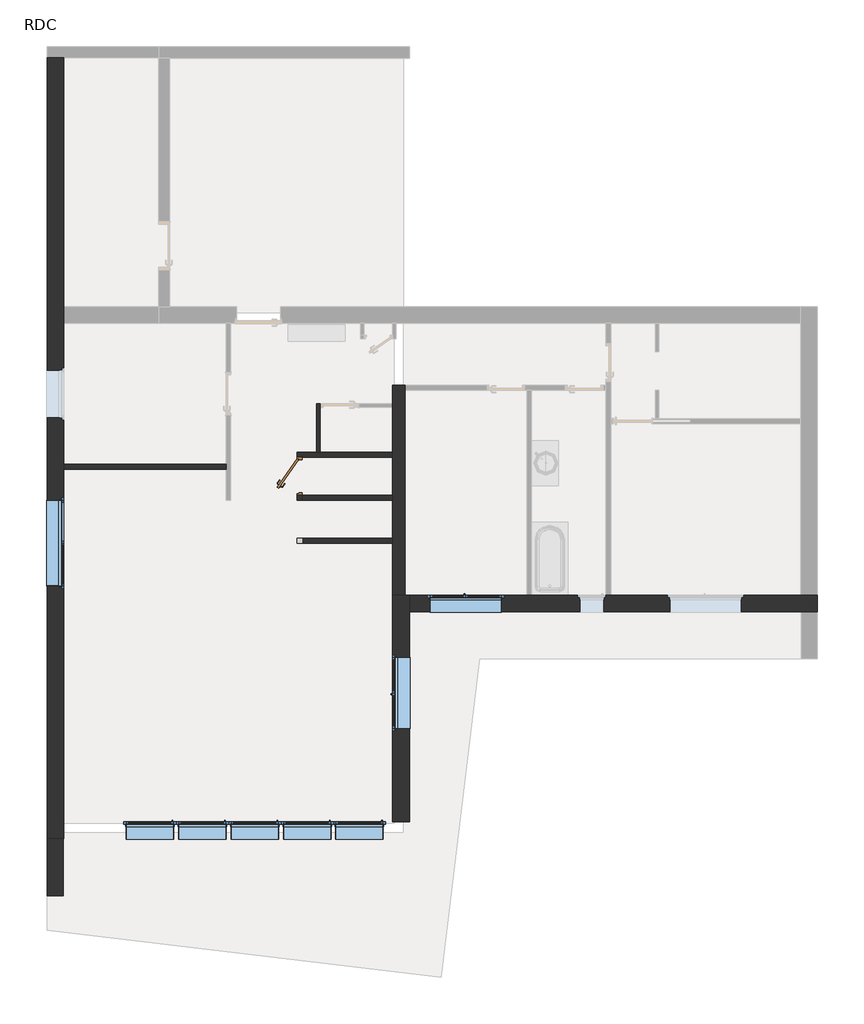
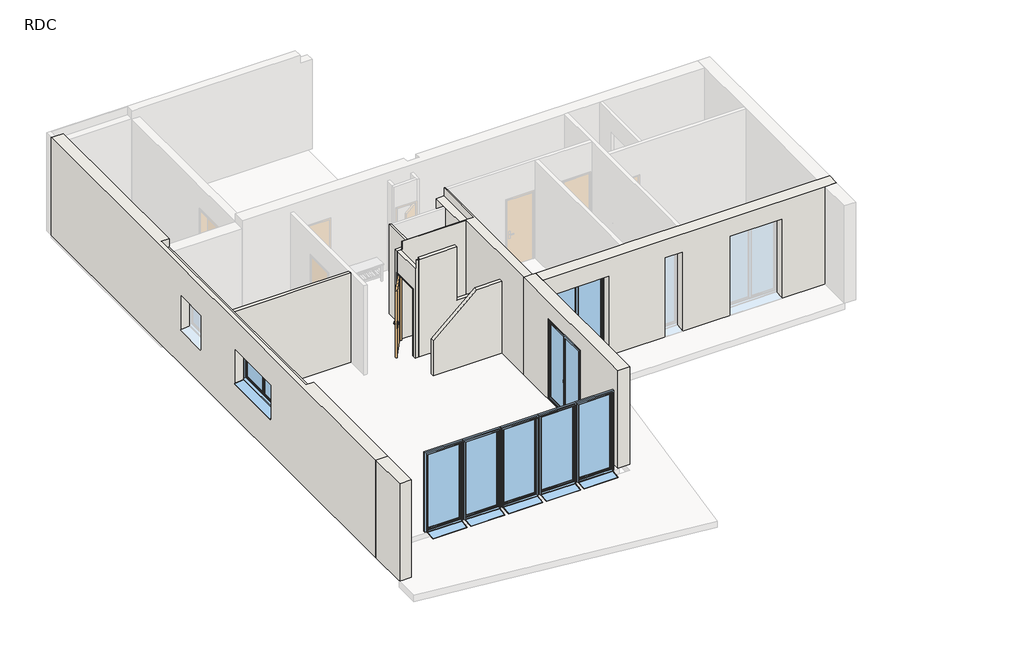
# One storey, part 1 of 2: 11 walls, 8 windows, 1 door.
"""IFC4 building model written with IfcOpenShell, lengths in millimetres."""

from ifc_helpers import new_model, si_unit, frame, origin, origin_with_axes, place, context, project, spatial, polyline, outline, extrude, faceted_brep, transform, mapped, element, save
from components import int_simple_pp_0_73m_x_2_04m_0155da5d, window_1_00m_x_2_40m_46732dcd, window_1_50m_x_2_40m_e69f112c, window_1_80m_x_1_00m_00121215

model = new_model("IFC4")

# Units and contexts
model_context = context("Model", 3, world=origin())
ifc_project = project(units=[si_unit("LENGTHUNIT", "METRE", prefix="MILLI")], contexts=[model_context])

# Site, building, storey
site = spatial("IfcSite", under=ifc_project)
building = spatial("IfcBuilding", under=site)
storey = spatial("IfcBuildingStorey", under=building, Name="RDC", Elevation=0.0)

# Door
placement = place(None, origin())
int_simple_pp_0_73m_x_2_04m_shape = int_simple_pp_0_73m_x_2_04m_0155da5d(model_context)
element("IfcDoor", 1, ObjectType="Int. Simple : PP (0.73m x 2.04m)", at=placement, inside=storey, context=model_context, shape_type="MappedRepresentation", body=[
    mapped(int_simple_pp_0_73m_x_2_04m_shape, transform((-2669.1256089, -1110.1038978, 0.0), x_axis=(0.0, 1.0, 0.0), y_axis=(-1.0, 0.0, 0.0), z_axis=(0.0, 0.0, 1.0))),
])

# Walls
element("IfcWall", 2, ObjectType="Ext. Bardage Métal + Isolant + Béton + Finition", at=placement, inside=storey, context=model_context, shape_type="Brep", body=[
    faceted_brep([(-7956.697342, 7624.9574199, 0.0), (-7956.697342, -8735.0425801, 0.0), (-7956.697342, -8735.0425801, 3000.0), (-7956.697342, 7624.9574199, 3000.0), (-7956.697342, 79.9267611, 2100.0), (-7956.697342, 79.9267611, 1056.6218565), (-7956.697342, 1079.9267611, 1056.6218565), (-7956.697342, 1079.9267611, 2100.0), (-7956.697342, -3445.1038978, 2100.0), (-7956.697342, -3445.1038978, 1056.6218565), (-7956.697342, -1645.1038978, 1056.6218565), (-7956.697342, -1645.1038978, 2100.0), (-7606.697342, -8735.0425801, 0.0), (-7606.697342, -8385.0425801, 0.0), (-7606.697342, -995.1038978, 0.0), (-7606.697342, -895.1038978, 0.0), (-7606.697342, 2054.9574199, 0.0), (-7606.697342, 2404.9574199, 0.0), (-7606.697342, 7624.9574199, 0.0), (-7606.697342, 7624.9574199, 3000.0), (-7606.697342, 2284.9574199, 3000.0), (-7606.697342, 2284.9574199, 2750.0), (-7606.697342, 2054.9574199, 2750.0), (-7606.697342, -895.1038978, 2750.0), (-7606.697342, -995.1038978, 2750.0), (-7606.697342, -4992.0425801, 2750.0), (-7606.697342, -4992.0425801, 3000.0), (-7606.697342, -8385.0425801, 3000.0), (-7606.697342, -8735.0425801, 3000.0), (-7606.697342, 1129.9267611, 1100.0), (-7606.697342, 29.9267611, 1100.0), (-7606.697342, 29.9267611, 2150.0), (-7606.697342, 1129.9267611, 2150.0), (-7606.697342, -1595.1038978, 1100.0), (-7606.697342, -3495.1038978, 1100.0), (-7606.697342, -3495.1038978, 2150.0), (-7606.697342, -1595.1038978, 2150.0), (-7616.697342, -8735.0425801, 0.0), (-7616.697342, -8735.0425801, 3000.0), (-7836.697342, -4992.0425801, 3000.0), (-7836.697342, 2284.9574199, 3000.0), (-7836.697342, 7624.9574199, 3000.0), (-7836.697342, 2284.9574199, 2750.0), (-7836.697342, -4992.0425801, 2750.0), (-7686.697342, 79.9267611, 1100.0), (-7686.697342, 79.9267611, 1085.0), (-7706.697342, 79.9267611, 2100.0), (-7706.697342, 79.9267611, 1100.0), (-7686.697342, 1079.9267611, 1085.0), (-7686.697342, 1079.9267611, 1100.0), (-7706.697342, 1079.9267611, 1100.0), (-7706.697342, 1079.9267611, 2100.0), (-7706.697342, 69.9267611, 1100.0), (-7656.697342, 69.9267611, 1100.0), (-7656.697342, 29.9267611, 1100.0), (-7656.697342, 1129.9267611, 1100.0), (-7656.697342, 1089.9267611, 1100.0), (-7706.697342, 1089.9267611, 1100.0), (-7656.697342, 29.9267611, 2150.0), (-7656.697342, 69.9267611, 2110.0), (-7656.697342, 1089.9267611, 2110.0), (-7656.697342, 1129.9267611, 2150.0), (-7706.697342, 69.9267611, 2110.0), (-7706.697342, 1089.9267611, 2110.0), (-7686.697342, -3445.1038978, 1100.0), (-7686.697342, -3445.1038978, 1085.0), (-7706.697342, -3445.1038978, 2100.0), (-7706.697342, -3445.1038978, 1100.0), (-7686.697342, -1645.1038978, 1085.0), (-7686.697342, -1645.1038978, 1100.0), (-7706.697342, -1645.1038978, 1100.0), (-7706.697342, -1645.1038978, 2100.0), (-7706.697342, -3455.1038978, 1100.0), (-7656.697342, -3455.1038978, 1100.0), (-7656.697342, -3495.1038978, 1100.0), (-7656.697342, -1595.1038978, 1100.0), (-7656.697342, -1635.1038978, 1100.0), (-7706.697342, -1635.1038978, 1100.0), (-7656.697342, -3495.1038978, 2150.0), (-7656.697342, -3455.1038978, 2110.0), (-7656.697342, -1635.1038978, 2110.0), (-7656.697342, -1595.1038978, 2150.0), (-7706.697342, -3455.1038978, 2110.0), (-7706.697342, -1635.1038978, 2110.0)], [[[0, 1, 2, 3], [4, 5, 6, 7], [8, 9, 10, 11]], [[12, 13, 14, 15, 16, 17, 18, 19, 20, 21, 22, 23, 24, 25, 26, 27, 28], [29, 30, 31, 32], [33, 34, 35, 36]], [[1, 0, 18, 17, 16, 15, 14, 13, 12, 37]], [[3, 2, 38, 28, 27, 26, 39, 40, 20, 19, 41]], [[42, 43, 25, 24, 23, 22, 21]], [[43, 42, 40, 39]], [[43, 39, 26, 25]], [[40, 42, 21, 20]], [[0, 3, 41, 19, 18]], [[2, 1, 37, 12, 28, 38]], [[44, 45, 5, 4, 46, 47]], [[48, 49, 50, 51, 7, 6]], [[5, 45, 48, 6]], [[45, 44, 49, 48]], [[46, 4, 7, 51]], [[44, 47, 52, 53, 54, 30, 29, 55, 56, 57, 50, 49]], [[30, 54, 58, 31]], [[54, 53, 59, 60, 56, 55, 61, 58]], [[53, 52, 62, 59]], [[47, 46, 51, 50, 57, 63, 62, 52]], [[31, 58, 61, 32]], [[60, 59, 62, 63]], [[55, 29, 32, 61]], [[57, 56, 60, 63]], [[64, 65, 9, 8, 66, 67]], [[68, 69, 70, 71, 11, 10]], [[9, 65, 68, 10]], [[65, 64, 69, 68]], [[66, 8, 11, 71]], [[64, 67, 72, 73, 74, 34, 33, 75, 76, 77, 70, 69]], [[34, 74, 78, 35]], [[74, 73, 79, 80, 76, 75, 81, 78]], [[73, 72, 82, 79]], [[67, 66, 71, 70, 77, 83, 82, 72]], [[35, 78, 81, 36]], [[80, 79, 82, 83]], [[75, 33, 36, 81]], [[77, 76, 80, 83]]]),
])
element("IfcWall", 3, ObjectType="Ext. Bardage Bois + Isolant + Béton + Finition", at=placement, inside=storey, context=model_context, shape_type="Brep", body=[
    faceted_brep([(-366.697342, -8385.0425801, 0.0), (-366.697342, -3985.0425801, 0.0), (-366.697342, -3635.0425801, 0.0), (-366.697342, -3635.0425801, 3000.0), (-366.697342, -3985.0425801, 3000.0), (-366.697342, -8385.0425801, 3000.0), (-366.697342, -4935.0425801, 2435.0), (-366.697342, -4935.0425801, 6.6218565), (-366.697342, -6435.0425801, 6.6218565), (-366.697342, -6435.0425801, 2435.0), (-716.697342, -8385.0425801, 0.0), (-716.697342, -8385.0425801, 3000.0), (-716.697342, -3635.0425801, 3000.0), (-716.697342, -3635.0425801, 0.0), (-716.697342, -6485.0425801, 35.0), (-716.697342, -4885.0425801, 35.0), (-716.697342, -4885.0425801, 2485.0), (-716.697342, -6485.0425801, 2485.0), (-456.697342, -3635.0425801, 0.0), (-456.697342, -3635.0425801, 3000.0), (-636.697342, -4935.0425801, 35.0), (-616.697342, -4935.0425801, 2435.0), (-616.697342, -4935.0425801, 35.0), (-636.697342, -6435.0425801, 35.0), (-616.697342, -6435.0425801, 35.0), (-616.697342, -6435.0425801, 2435.0), (-616.697342, -4925.0425801, 35.0), (-666.697342, -4925.0425801, 35.0), (-666.697342, -4885.0425801, 35.0), (-666.697342, -6485.0425801, 35.0), (-666.697342, -6445.0425801, 35.0), (-616.697342, -6445.0425801, 35.0), (-666.697342, -4885.0425801, 2485.0), (-666.697342, -4925.0425801, 2445.0), (-666.697342, -6445.0425801, 2445.0), (-666.697342, -6485.0425801, 2485.0), (-616.697342, -4925.0425801, 2445.0), (-616.697342, -6445.0425801, 2445.0)], [[[0, 1, 2, 3, 4, 5], [6, 7, 8, 9]], [[10, 11, 12, 13], [14, 15, 16, 17]], [[2, 1, 0, 10, 13, 18]], [[5, 4, 3, 19, 12, 11]], [[0, 5, 11, 10]], [[3, 2, 18, 13, 12, 19]], [[20, 7, 6, 21, 22]], [[8, 23, 24, 25, 9]], [[20, 23, 8, 7]], [[6, 9, 25, 21]], [[23, 20, 22, 26, 27, 28, 15, 14, 29, 30, 31, 24]], [[15, 28, 32, 16]], [[28, 27, 33, 34, 30, 29, 35, 32]], [[27, 26, 36, 33]], [[26, 22, 21, 25, 24, 31, 37, 36]], [[16, 32, 35, 17]], [[34, 33, 36, 37]], [[35, 29, 14, 17]], [[30, 34, 37, 31]]]),
])
element("IfcWall", 4, ObjectType="Ext. Bardage Métal + Isolant + Béton + Finition", at=placement, inside=storey, context=model_context, shape_type="Brep", body=[
    faceted_brep([(-366.697342, -3985.0425801, 0.0), (7843.302658, -3985.0425801, 0.0), (8183.302658, -3985.0425801, 0.0), (8183.302658, -3985.0425801, 3000.0), (7843.302658, -3985.0425801, 3000.0), (-366.697342, -3985.0425801, 3000.0), (1563.302658, -3985.0425801, 2435.0), (1563.302658, -3985.0425801, 6.6218565), (63.302658, -3985.0425801, 6.6218565), (63.302658, -3985.0425801, 2435.0), (6593.802658, -3985.0425801, 2435.0), (6593.802658, -3985.0425801, 6.6218565), (5093.802658, -3985.0425801, 6.6218565), (5093.802658, -3985.0425801, 2435.0), (3704.302658, -3985.0425801, 2435.0), (3704.302658, -3985.0425801, 6.6218565), (3204.302658, -3985.0425801, 6.6218565), (3204.302658, -3985.0425801, 2435.0), (-366.697342, -3635.0425801, 0.0), (-366.697342, -3635.0425801, 3000.0), (2094.302658, -3635.0425801, 3000.0), (2194.302658, -3635.0425801, 3000.0), (3754.302658, -3635.0425801, 3000.0), (3854.302658, -3635.0425801, 3000.0), (7833.302658, -3635.0425801, 3000.0), (8183.302658, -3635.0425801, 3000.0), (8183.302658, -3635.0425801, 0.0), (7833.302658, -3635.0425801, 0.0), (3854.302658, -3635.0425801, 0.0), (3754.302658, -3635.0425801, 0.0), (2194.302658, -3635.0425801, 0.0), (2094.302658, -3635.0425801, 0.0), (13.302658, -3635.0425801, 35.0), (1613.302658, -3635.0425801, 35.0), (1613.302658, -3635.0425801, 2485.0), (13.302658, -3635.0425801, 2485.0), (5043.802658, -3635.0425801, 35.0), (6643.802658, -3635.0425801, 35.0), (6643.802658, -3635.0425801, 2485.0), (5043.802658, -3635.0425801, 2485.0), (3154.302658, -3635.0425801, 35.0), (3754.302658, -3635.0425801, 35.0), (3754.302658, -3635.0425801, 2485.0), (3154.302658, -3635.0425801, 2485.0), (1563.302658, -3715.0425801, 35.0), (1563.302658, -3735.0425801, 2435.0), (1563.302658, -3735.0425801, 35.0), (63.302658, -3715.0425801, 35.0), (63.302658, -3735.0425801, 35.0), (63.302658, -3735.0425801, 2435.0), (1573.302658, -3735.0425801, 35.0), (1573.302658, -3685.0425801, 35.0), (1613.302658, -3685.0425801, 35.0), (13.302658, -3685.0425801, 35.0), (53.302658, -3685.0425801, 35.0), (53.302658, -3735.0425801, 35.0), (1613.302658, -3685.0425801, 2485.0), (1573.302658, -3685.0425801, 2445.0), (53.302658, -3685.0425801, 2445.0), (13.302658, -3685.0425801, 2485.0), (1573.302658, -3735.0425801, 2445.0), (53.302658, -3735.0425801, 2445.0), (6593.802658, -3715.0425801, 35.0), (6593.802658, -3735.0425801, 2435.0), (6593.802658, -3735.0425801, 35.0), (5093.802658, -3715.0425801, 35.0), (5093.802658, -3735.0425801, 35.0), (5093.802658, -3735.0425801, 2435.0), (6603.802658, -3735.0425801, 35.0), (6603.802658, -3685.0425801, 35.0), (6643.802658, -3685.0425801, 35.0), (5043.802658, -3685.0425801, 35.0), (5083.802658, -3685.0425801, 35.0), (5083.802658, -3735.0425801, 35.0), (6643.802658, -3685.0425801, 2485.0), (6603.802658, -3685.0425801, 2445.0), (5083.802658, -3685.0425801, 2445.0), (5043.802658, -3685.0425801, 2485.0), (6603.802658, -3735.0425801, 2445.0), (5083.802658, -3735.0425801, 2445.0), (3704.302658, -3715.0425801, 35.0), (3704.302658, -3735.0425801, 2435.0), (3704.302658, -3735.0425801, 35.0), (3204.302658, -3715.0425801, 35.0), (3204.302658, -3735.0425801, 35.0), (3204.302658, -3735.0425801, 2435.0), (3714.302658, -3735.0425801, 35.0), (3714.302658, -3685.0425801, 35.0), (3754.302658, -3685.0425801, 35.0), (3154.302658, -3685.0425801, 35.0), (3194.302658, -3685.0425801, 35.0), (3194.302658, -3735.0425801, 35.0), (3754.302658, -3685.0425801, 2485.0), (3714.302658, -3685.0425801, 2445.0), (3194.302658, -3685.0425801, 2445.0), (3154.302658, -3685.0425801, 2485.0), (3714.302658, -3735.0425801, 2445.0), (3194.302658, -3735.0425801, 2445.0)], [[[0, 1, 2, 3, 4, 5], [6, 7, 8, 9], [10, 11, 12, 13], [14, 15, 16, 17]], [[18, 19, 20, 21, 22, 23, 24, 25, 26, 27, 28, 29, 30, 31], [32, 33, 34, 35], [36, 37, 38, 39], [40, 41, 42, 43]], [[2, 1, 0, 18, 31, 30, 29, 28, 27, 26]], [[5, 4, 3, 25, 24, 23, 22, 21, 20, 19]], [[0, 5, 19, 18]], [[3, 2, 26, 25]], [[44, 7, 6, 45, 46]], [[8, 47, 48, 49, 9]], [[44, 47, 8, 7]], [[6, 9, 49, 45]], [[47, 44, 46, 50, 51, 52, 33, 32, 53, 54, 55, 48]], [[33, 52, 56, 34]], [[52, 51, 57, 58, 54, 53, 59, 56]], [[51, 50, 60, 57]], [[50, 46, 45, 49, 48, 55, 61, 60]], [[34, 56, 59, 35]], [[58, 57, 60, 61]], [[59, 53, 32, 35]], [[54, 58, 61, 55]], [[62, 11, 10, 63, 64]], [[12, 65, 66, 67, 13]], [[62, 65, 12, 11]], [[10, 13, 67, 63]], [[65, 62, 64, 68, 69, 70, 37, 36, 71, 72, 73, 66]], [[37, 70, 74, 38]], [[70, 69, 75, 76, 72, 71, 77, 74]], [[69, 68, 78, 75]], [[68, 64, 63, 67, 66, 73, 79, 78]], [[38, 74, 77, 39]], [[76, 75, 78, 79]], [[77, 71, 36, 39]], [[72, 76, 79, 73]], [[80, 15, 14, 81, 82]], [[16, 83, 84, 85, 17]], [[80, 83, 16, 15]], [[14, 17, 85, 81]], [[83, 80, 82, 86, 87, 88, 41, 40, 89, 90, 91, 84]], [[41, 88, 92, 42]], [[88, 87, 93, 94, 90, 89, 95, 92]], [[87, 86, 96, 93]], [[86, 82, 81, 85, 84, 91, 97, 96]], [[42, 92, 95, 43]], [[94, 93, 96, 97]], [[95, 89, 40, 43]], [[90, 94, 97, 91]]]),
])
element("IfcWall", 5, ObjectType="Int. Plâtre 100 mm", at=placement, inside=storey, context=model_context, shape_type="SweptSolid", body=[
    extrude(outline(polyline([(-4211.697342, -995.1038978), (-7606.697342, -995.1038978), (-7606.697342, -895.1038978), (-4211.697342, -895.1038978), (-4211.697342, -995.1038978)])), origin_with_axes(), (0.0, 0.0, 1.0), 2750.0),
])
element("IfcWall", 6, ObjectType="Int. Plâtre 100 mm", at=placement, inside=storey, context=model_context, shape_type="Brep", body=[
    faceted_brep([(-716.697342, -645.1038978, 0.0), (-2241.697342, -645.1038978, 0.0), (-2313.697342, -645.1038978, 0.0), (-2719.1256089, -645.1038978, 0.0), (-2719.1256089, -645.1038978, 2750.0), (-2313.697342, -645.1038978, 2750.0), (-2241.697342, -645.1038978, 2750.0), (-716.697342, -645.1038978, 2750.0), (-2719.1256089, -745.1038978, 0.0), (-716.697342, -745.1038978, 0.0), (-716.697342, -745.1038978, 3000.0), (-2577.5004576, -745.1038978, 3000.0), (-2577.5004576, -745.1038978, 2750.0), (-2619.1256089, -745.1038978, 2750.0), (-2719.1256089, -745.1038978, 2750.0), (-2719.1256089, -745.1038978, 2075.0), (-716.697342, -732.1038978, 3000.0), (-2577.5004576, -732.1038978, 3000.0), (-716.697342, -732.1038978, 2750.0), (-2577.5004576, -732.1038978, 2750.0)], [[[0, 1, 2, 3, 4, 5, 6, 7]], [[8, 9, 10, 11, 12, 13, 14, 15]], [[3, 2, 1, 0, 9, 8]], [[11, 10, 16, 17]], [[3, 8, 15, 14, 4]], [[10, 9, 0, 7, 18, 16]], [[12, 19, 18, 7, 6, 5, 4, 14, 13]], [[19, 17, 16, 18]], [[17, 19, 12, 11]]]),
])
element("IfcWall", 7, ObjectType="Int. Plâtre 100 mm", at=placement, inside=storey, context=model_context, shape_type="Brep", body=[
    faceted_brep([(-2719.1256089, -1545.1038978, 0.0), (-2719.1256089, -1645.1038978, 0.0), (-2719.1256089, -1645.1038978, 2750.0), (-2719.1256089, -745.1038978, 2750.0), (-2719.1256089, -745.1038978, 2075.0), (-2719.1256089, -1545.1038978, 2075.0), (-2619.1256089, -1645.1038978, 3000.0), (-2619.1256089, -1645.1038978, 0.0), (-2619.1256089, -1545.1038978, 0.0), (-2619.1256089, -1545.1038978, 2075.0), (-2619.1256089, -745.1038978, 2075.0), (-2619.1256089, -745.1038978, 2750.0), (-2619.1256089, -1545.1038978, 2750.0), (-2619.1256089, -1632.1038978, 2750.0), (-2619.1256089, -1632.1038978, 3000.0), (-2682.3224934, -1632.1038978, 3000.0), (-2682.3224934, -1645.1038978, 3000.0), (-2682.3224934, -1645.1038978, 2750.0), (-2682.3224934, -1632.1038978, 2750.0)], [[[0, 1, 2, 3, 4, 5]], [[6, 7, 8, 9, 10, 11, 12, 13, 14]], [[7, 1, 0, 8]], [[6, 14, 15, 16]], [[10, 4, 3, 11]], [[17, 18, 13, 12, 11, 3, 2]], [[1, 7, 6, 16, 17, 2]], [[18, 15, 14, 13]], [[15, 18, 17, 16]], [[9, 5, 4, 10]], [[5, 9, 8, 0]]]),
])
element("IfcWall", 8, ObjectType="Int. Plâtre 100 mm", at=placement, inside=storey, context=model_context, shape_type="Brep", body=[
    faceted_brep([(-2619.1256089, -1645.1038978, 0.0), (-716.697342, -1645.1038978, 0.0), (-716.697342, -1645.1038978, 1360.0), (-1515.8753062, -1645.1038978, 1360.0), (-1515.8753062, -1645.1038978, 3000.0), (-2619.1256089, -1645.1038978, 3000.0), (-716.697342, -1545.1038978, 0.0), (-2619.1256089, -1545.1038978, 0.0), (-2619.1256089, -1545.1038978, 2750.0), (-2577.5004576, -1545.1038978, 2750.0), (-2577.5004576, -1545.1038978, 3000.0), (-1515.8753062, -1545.1038978, 3000.0), (-1515.8753062, -1545.1038978, 1360.0), (-716.697342, -1545.1038978, 1360.0), (-2577.5004576, -1632.1038978, 3000.0), (-2619.1256089, -1632.1038978, 3000.0), (-2619.1256089, -1632.1038978, 2750.0), (-2577.5004576, -1632.1038978, 2750.0)], [[[0, 1, 2, 3, 4, 5]], [[6, 7, 8, 9, 10, 11, 12, 13]], [[2, 1, 6, 13]], [[1, 0, 7, 6]], [[5, 4, 11, 10, 14, 15]], [[3, 2, 13, 12]], [[4, 3, 12, 11]], [[7, 0, 5, 15, 16, 8]], [[16, 17, 9, 8]], [[17, 14, 10, 9]], [[14, 17, 16, 15]]]),
])
element("IfcWall", 9, ObjectType="Int. Plâtre 70 mm", at=placement, inside=storey, context=model_context, shape_type="Brep", body=[
    faceted_brep([(-2241.697342, -645.1038978, 0.0), (-2241.697342, 299.8961022, 0.0), (-2241.697342, 371.8961022, 0.0), (-2241.697342, 371.8961022, 2750.0), (-2241.697342, 299.8961022, 2750.0), (-2241.697342, -645.1038978, 2750.0), (-2313.697342, -645.1038978, 0.0), (-2313.697342, -645.1038978, 2750.0), (-2313.697342, 371.8961022, 2750.0), (-2313.697342, 371.8961022, 0.0)], [[[0, 1, 2, 3, 4, 5]], [[6, 7, 8, 9]], [[2, 1, 0, 6, 9]], [[0, 5, 7, 6]], [[3, 2, 9, 8]], [[5, 4, 3, 8, 7]]]),
])
element("IfcWall", 10, ObjectType="Int. Béton + Finition", at=placement, inside=storey, context=model_context, shape_type="Brep", body=[
    faceted_brep([(-716.697342, 757.8961022, 0.0), (-716.697342, 371.8961022, 0.0), (-716.697342, 299.8961022, 0.0), (-716.697342, -645.1038978, 0.0), (-716.697342, -745.1038978, 0.0), (-716.697342, -1545.1038978, 0.0), (-716.697342, -1645.1038978, 0.0), (-716.697342, -2445.1038978, 0.0), (-716.697342, -2545.1038978, 0.0), (-716.697342, -3635.0425801, 0.0), (-716.697342, -3635.0425801, 3000.0), (-716.697342, -745.1038978, 3000.0), (-716.697342, -732.1038978, 3000.0), (-716.697342, -732.1038978, 2750.0), (-716.697342, -645.1038978, 2750.0), (-716.697342, 299.8961022, 2750.0), (-716.697342, 371.8961022, 2750.0), (-716.697342, 757.8961022, 2750.0), (-456.697342, -3635.0425801, 0.0), (-456.697342, 657.8961022, 0.0), (-456.697342, 757.8961022, 0.0), (-456.697342, 757.8961022, 3000.0), (-456.697342, 657.8961022, 3000.0), (-456.697342, -3635.0425801, 3000.0), (-486.697342, 757.8961022, 3000.0), (-486.697342, -732.1038978, 3000.0), (-486.697342, 757.8961022, 2750.0), (-486.697342, -732.1038978, 2750.0)], [[[0, 1, 2, 3, 4, 5, 6, 7, 8, 9, 10, 11, 12, 13, 14, 15, 16, 17]], [[18, 19, 20, 21, 22, 23]], [[9, 8, 7, 6, 5, 4, 3, 2, 1, 0, 20, 19, 18]], [[23, 22, 21, 24, 25, 12, 11, 10]], [[21, 20, 0, 17, 26, 24]], [[10, 9, 18, 23]], [[13, 27, 26, 17, 16, 15, 14]], [[27, 25, 24, 26]], [[25, 27, 13, 12]]]),
])
element("IfcWall", 11, ObjectType="Int. Plâtre 100 mm", at=placement, inside=storey, context=model_context, shape_type="SweptSolid", body=[
    extrude(outline(polyline([(0.0, -716.697342), (2212.5, -716.697342), (2212.5, -1446.8453117), (1087.5, -2719.1256089), (0.0, -2719.1256089), (0.0, -716.697342)])), frame((0.0, -2545.1038978, 0.0), z_axis=(0.0, 1.0, 0.0), x_axis=(0.0, 0.0, 1.0)), (0.0, 0.0, 1.0), 100.0),
])
element("IfcWall", 12, ObjectType="Ext. Bardage Métal + Isolant + Béton + Bardage Bois", at=placement, inside=storey, context=model_context, shape_type="SweptSolid", body=[
    extrude(outline(polyline([(-7956.697342, -9932.1038978), (-7956.697342, -8735.0425801), (-7616.697342, -8735.0425801), (-7616.697342, -9932.1038978), (-7956.697342, -9932.1038978)])), origin_with_axes(), (0.0, 0.0, 1.0), 3000.0),
])

# Windows
window_1_00m_x_2_40m_shape = window_1_00m_x_2_40m_46732dcd(model_context)
element("IfcWindow", 13, ObjectType="PF 1 Vantail - Droite : 1.00m x 2.40m", at=placement, inside=storey, context=model_context, shape_type="MappedRepresentation", body=[
    mapped(window_1_00m_x_2_40m_shape, transform((-5806.697342, -8560.0425801, 0.0), x_axis=(-1.0, 0.0, 0.0), y_axis=(0.0, -1.0, 0.0), z_axis=(0.0, 0.0, 1.0))),
])
element("IfcWindow", 14, ObjectType="PF 1 Vantail - Droite : 1.00m x 2.40m", at=placement, inside=storey, context=model_context, shape_type="MappedRepresentation", body=[
    mapped(window_1_00m_x_2_40m_shape, transform((-4706.697342, -8560.0425801, 0.0), x_axis=(-1.0, 0.0, 0.0), y_axis=(0.0, -1.0, 0.0), z_axis=(0.0, 0.0, 1.0))),
])
element("IfcWindow", 15, ObjectType="PF 1 Vantail - Droite : 1.00m x 2.40m", at=placement, inside=storey, context=model_context, shape_type="MappedRepresentation", body=[
    mapped(window_1_00m_x_2_40m_shape, transform((-3606.697342, -8560.0425801, 0.0), x_axis=(-1.0, 0.0, 0.0), y_axis=(0.0, -1.0, 0.0), z_axis=(0.0, 0.0, 1.0))),
])
element("IfcWindow", 16, ObjectType="PF 1 Vantail - Droite : 1.00m x 2.40m", at=placement, inside=storey, context=model_context, shape_type="MappedRepresentation", body=[
    mapped(window_1_00m_x_2_40m_shape, transform((-2506.697342, -8560.0425801, 0.0), x_axis=(-1.0, 0.0, 0.0), y_axis=(0.0, -1.0, 0.0), z_axis=(0.0, 0.0, 1.0))),
])
element("IfcWindow", 17, ObjectType="PF 1 Vantail - Droite : 1.00m x 2.40m", at=placement, inside=storey, context=model_context, shape_type="MappedRepresentation", body=[
    mapped(window_1_00m_x_2_40m_shape, transform((-1416.697342, -8560.0425801, 0.0), x_axis=(-1.0, 0.0, 0.0), y_axis=(0.0, -1.0, 0.0), z_axis=(0.0, 0.0, 1.0))),
])
window_1_50m_x_2_40m_shape = window_1_50m_x_2_40m_e69f112c(model_context)
element("IfcWindow", 18, ObjectType="PF 2 Vantaux - Droits : 1.50m x 2.40m", at=placement, inside=storey, context=model_context, shape_type="MappedRepresentation", body=[
    mapped(window_1_50m_x_2_40m_shape, transform((813.302658, -3810.0425801, 0.0), x_axis=(-1.0, 0.0, 0.0), y_axis=(0.0, -1.0, 0.0), z_axis=(0.0, 0.0, 1.0))),
])
element("IfcWindow", 19, ObjectType="PF 2 Vantaux - Droits : 1.50m x 2.40m", at=placement, inside=storey, context=model_context, shape_type="MappedRepresentation", body=[
    mapped(window_1_50m_x_2_40m_shape, transform((-541.697342, -5685.0425801, 0.0), x_axis=(0.0, -1.0, 0.0), y_axis=(1.0, 0.0, 0.0), z_axis=(0.0, 0.0, 1.0))),
])
window_1_80m_x_1_00m_shape = window_1_80m_x_1_00m_00121215(model_context)
element("IfcWindow", 20, ObjectType="2 Vantaux - Droits : 1.80m x 1.00m", at=placement, inside=storey, context=model_context, shape_type="MappedRepresentation", body=[
    mapped(window_1_80m_x_1_00m_shape, transform((-7781.697342, -2545.1038978, 300.0), x_axis=(0.0, 1.0, 0.0), y_axis=(-1.0, 0.0, 0.0), z_axis=(0.0, 0.0, 1.0))),
])

save(model, "model.ifc")
